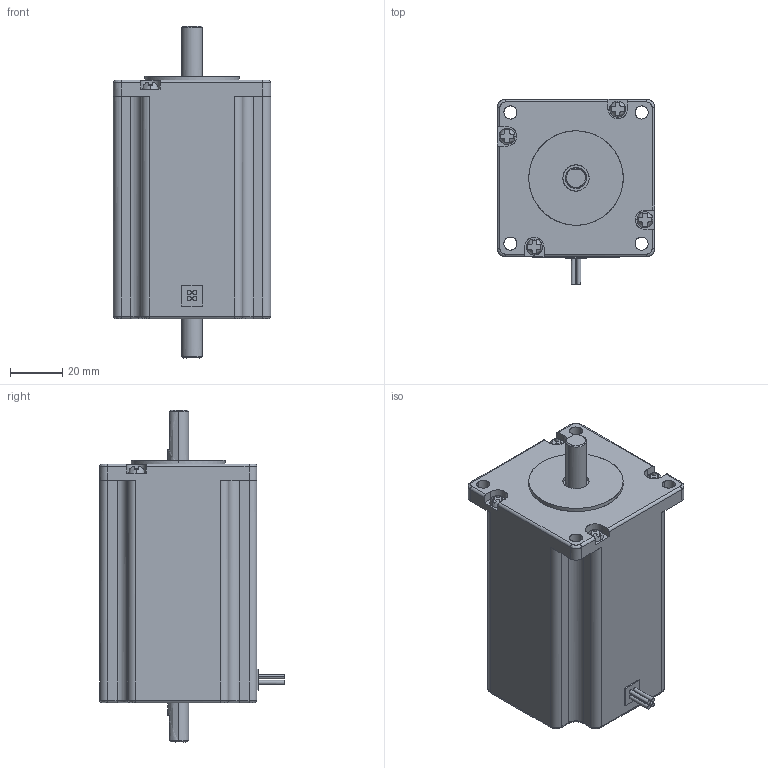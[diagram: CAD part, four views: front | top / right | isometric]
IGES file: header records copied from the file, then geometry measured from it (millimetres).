
Global section: file name: C:\DOCUME~1\PC001\BM-60L-C.igs; preprocessor: I-DEAS 3D IGES Translator 12; date: 20100107.191845; units: millimetre
Bounding box: 60 x 70.5 x 126.6 mm (x, y, z)
Surface area: 29393.1 mm2 (no closed solid volume)
Topology: 0 solids, 0 shells, 224 faces, 1190 edges, 1190 vertices
Faces by surface type: bspline 224
